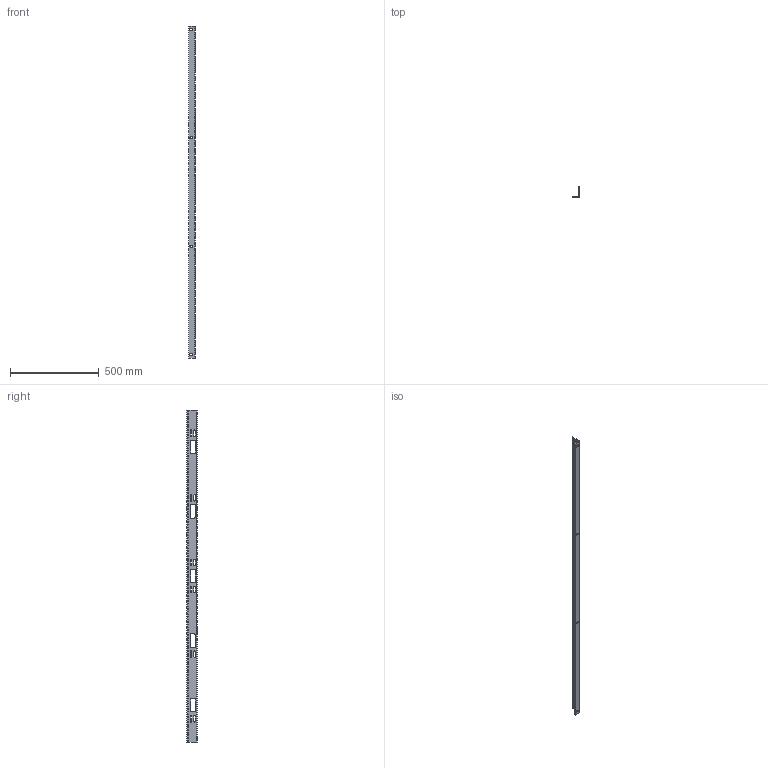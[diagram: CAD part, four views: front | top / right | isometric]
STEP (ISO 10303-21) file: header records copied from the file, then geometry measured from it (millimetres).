
FILE_DESCRIPTION(/* description */ ('Unknown'),/* implementation_level */ '2;1');
FILE_NAME(/* name */ 'C4PR7323TZPL',/* time_stamp */ '2021-05-11T08:21:00-04:00',/* author */ ('Unknown'),/* organization */ ('Unknown'),/* preprocessor_version */ 'ST-DEVELOPER v16.7',/* originating_system */ 'Solid Edge',/* authorisation */ 'Unknown');
FILE_SCHEMA (('AUTOMOTIVE_DESIGN {1 0 10303 214 3 1 1}'));
Length unit declared in the file: millimetre
Products named in the file (1): COM57507-13
Bounding box: 38.1 x 60.22 x 1866.9 mm (x, y, z)
Volume: 508366.5 mm3; surface area: 345280.1 mm2
Topology: 1 solids, 1 shells, 240 faces, 840 edges, 602 vertices
Faces by surface type: cylinder 180, plane 60
Full cylindrical faces by diameter (mm): 4.496 x126
Entity records: 8226 total; most frequent: DIRECTION 1430, CARTESIAN_POINT 1305, ORIENTED_EDGE 1176, EDGE_LOOP 660, FACE_BOUND 660, AXIS2_PLACEMENT_3D 601, EDGE_CURVE 588, VERTEX_POINT 476
